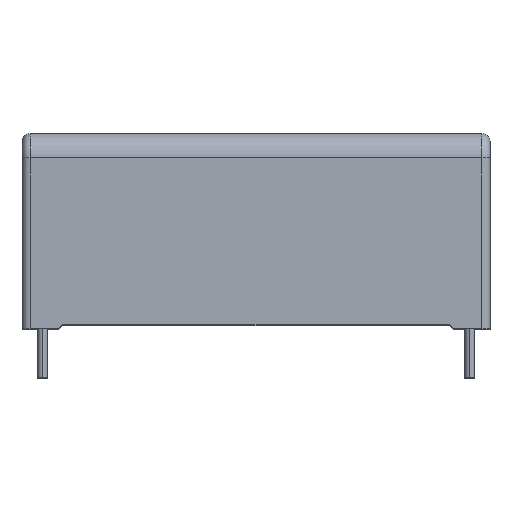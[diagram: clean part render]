
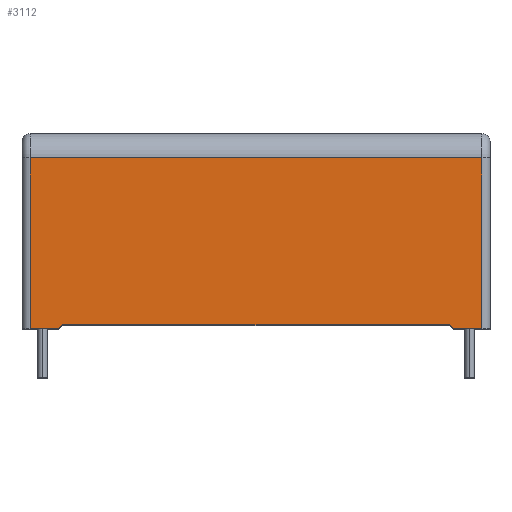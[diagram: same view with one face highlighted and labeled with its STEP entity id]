
A CAD part, top view. The second image highlights one B-rep face of the part: STEP entity #3112.
In plain terms, the highlighted planar face has unit normal (0, 0, 1).
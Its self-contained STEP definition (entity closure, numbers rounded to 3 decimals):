
#32 = DIRECTION ( 'NONE',  ( 0., 0., -1. ) ) ;
#53 = CARTESIAN_POINT ( 'NONE',  ( 24.25, 0., 35. ) ) ;
#168 = EDGE_CURVE ( 'NONE', #847, #4144, #1504, .T. ) ;
#286 = ORIENTED_EDGE ( 'NONE', *, *, #3161, .T. ) ;
#296 = LINE ( 'NONE', #1021, #1820 ) ;
#346 = LINE ( 'NONE', #2530, #4395 ) ;
#375 = ORIENTED_EDGE ( 'NONE', *, *, #3702, .F. ) ;
#381 = CARTESIAN_POINT ( 'NONE',  ( 27.75, 0., 35. ) ) ;
#406 = VERTEX_POINT ( 'NONE', #1024 ) ;
#520 = EDGE_CURVE ( 'NONE', #4144, #785, #346, .T. ) ;
#639 = ORIENTED_EDGE ( 'NONE', *, *, #722, .F. ) ;
#656 = CARTESIAN_POINT ( 'NONE',  ( 27.75, 21., 35. ) ) ;
#710 = CARTESIAN_POINT ( 'NONE',  ( -28.75, 24., 35. ) ) ;
#722 = EDGE_CURVE ( 'NONE', #3139, #3876, #2111, .T. ) ;
#731 = LINE ( 'NONE', #1724, #4275 ) ;
#734 = DIRECTION ( 'NONE',  ( 1., 0., 0. ) ) ;
#768 = DIRECTION ( 'NONE',  ( 0., 1., 0. ) ) ;
#785 = VERTEX_POINT ( 'NONE', #2480 ) ;
#803 = DIRECTION ( 'NONE',  ( -1., 0., 0. ) ) ;
#847 = VERTEX_POINT ( 'NONE', #381 ) ;
#990 = ORIENTED_EDGE ( 'NONE', *, *, #2850, .F. ) ;
#1021 = CARTESIAN_POINT ( 'NONE',  ( -23.75, 0.5, 35. ) ) ;
#1024 = CARTESIAN_POINT ( 'NONE',  ( -27.75, 0., 35. ) ) ;
#1096 = CARTESIAN_POINT ( 'NONE',  ( 27.75, 24., 35. ) ) ;
#1104 = DIRECTION ( 'NONE',  ( -0.707, 0.707, 0. ) ) ;
#1111 = VECTOR ( 'NONE', #1104, 1000. ) ;
#1335 = VERTEX_POINT ( 'NONE', #1735 ) ;
#1504 = LINE ( 'NONE', #1096, #2000 ) ;
#1569 = DIRECTION ( 'NONE',  ( 0., -1., 0. ) ) ;
#1577 = ORIENTED_EDGE ( 'NONE', *, *, #3873, .T. ) ;
#1724 = CARTESIAN_POINT ( 'NONE',  ( -28.75, 0., 35. ) ) ;
#1735 = CARTESIAN_POINT ( 'NONE',  ( -24.25, 0., 35. ) ) ;
#1820 = VECTOR ( 'NONE', #2437, 1000. ) ;
#1892 = LINE ( 'NONE', #2625, #4152 ) ;
#2000 = VECTOR ( 'NONE', #768, 1000. ) ;
#2111 = LINE ( 'NONE', #2458, #1111 ) ;
#2236 = EDGE_LOOP ( 'NONE', ( #990, #639, #286, #2916, #4390, #2495, #1577, #375 ) ) ;
#2259 = VERTEX_POINT ( 'NONE', #4602 ) ;
#2345 = CARTESIAN_POINT ( 'NONE',  ( -24.25, 0., 35. ) ) ;
#2437 = DIRECTION ( 'NONE',  ( -1., 0., 0. ) ) ;
#2458 = CARTESIAN_POINT ( 'NONE',  ( 23.75, 0.5, 35. ) ) ;
#2480 = CARTESIAN_POINT ( 'NONE',  ( -27.75, 21., 35. ) ) ;
#2495 = ORIENTED_EDGE ( 'NONE', *, *, #2776, .T. ) ;
#2530 = CARTESIAN_POINT ( 'NONE',  ( -28.75, 21., 35. ) ) ;
#2568 = PLANE ( 'NONE',  #4521 ) ;
#2625 = CARTESIAN_POINT ( 'NONE',  ( -27.75, 24., 35. ) ) ;
#2776 = EDGE_CURVE ( 'NONE', #785, #406, #1892, .T. ) ;
#2850 = EDGE_CURVE ( 'NONE', #3876, #2259, #296, .T. ) ;
#2907 = DIRECTION ( 'NONE',  ( -1., 0., 0. ) ) ;
#2916 = ORIENTED_EDGE ( 'NONE', *, *, #168, .T. ) ;
#3086 = LINE ( 'NONE', #2345, #4207 ) ;
#3112 = ADVANCED_FACE ( 'NONE', ( #3619 ), #2568, .F. ) ;
#3139 = VERTEX_POINT ( 'NONE', #53 ) ;
#3161 = EDGE_CURVE ( 'NONE', #3139, #847, #4285, .T. ) ;
#3172 = VECTOR ( 'NONE', #734, 1000. ) ;
#3619 = FACE_OUTER_BOUND ( 'NONE', #2236, .T. ) ;
#3702 = EDGE_CURVE ( 'NONE', #2259, #1335, #3086, .T. ) ;
#3771 = DIRECTION ( 'NONE',  ( -0.707, -0.707, 0. ) ) ;
#3873 = EDGE_CURVE ( 'NONE', #406, #1335, #731, .T. ) ;
#3876 = VERTEX_POINT ( 'NONE', #4609 ) ;
#3926 = CARTESIAN_POINT ( 'NONE',  ( -28.75, 0., 35. ) ) ;
#4144 = VERTEX_POINT ( 'NONE', #656 ) ;
#4152 = VECTOR ( 'NONE', #1569, 1000. ) ;
#4207 = VECTOR ( 'NONE', #3771, 1000. ) ;
#4275 = VECTOR ( 'NONE', #4303, 1000. ) ;
#4285 = LINE ( 'NONE', #3926, #3172 ) ;
#4303 = DIRECTION ( 'NONE',  ( 1., 0., 0. ) ) ;
#4390 = ORIENTED_EDGE ( 'NONE', *, *, #520, .T. ) ;
#4395 = VECTOR ( 'NONE', #2907, 1000. ) ;
#4521 = AXIS2_PLACEMENT_3D ( 'NONE', #710, #32, #803 ) ;
#4602 = CARTESIAN_POINT ( 'NONE',  ( -23.75, 0.5, 35. ) ) ;
#4609 = CARTESIAN_POINT ( 'NONE',  ( 23.75, 0.5, 35. ) ) ;
